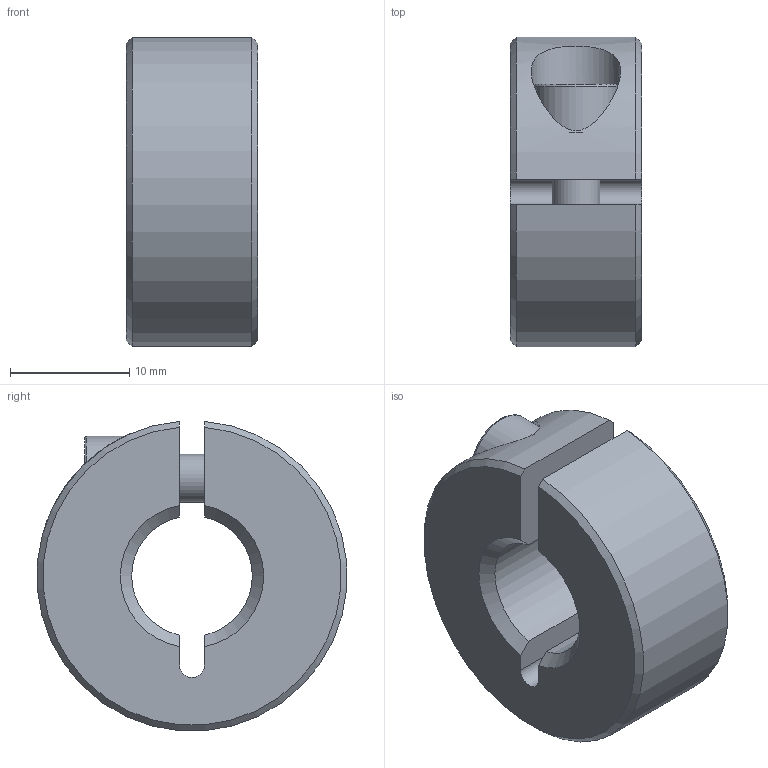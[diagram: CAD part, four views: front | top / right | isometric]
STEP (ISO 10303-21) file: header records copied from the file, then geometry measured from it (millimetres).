
FILE_DESCRIPTION( ( 'STEP AP203' ), '1' );
FILE_NAME( 'C:/Temp/Ganter_Step_05_03_2020/data/3_2/gn706_3/gn706_3_st/Threaded set collar GN 706.3-26-M12-ST.stp', '2020-03-13T05:33:33', ( 'License CC BY-ND 4.0' ), ( 'CADENAS' ), ' ', 'PARTsolutions', ' ' );
FILE_SCHEMA( ( 'CONFIG_CONTROL_DESIGN' ) );
Length unit declared in the file: millimetre
Products named in the file (1): _Threaded set collar GN 706.3-26-M12-ST
Bounding box: 11 x 25.91 x 25.91 mm (x, y, z)
Volume: 4590.7 mm3; surface area: 2529.4 mm2
Topology: 1 solids, 1 shells, 31 faces, 74 edges, 49 vertices
Faces by surface type: plane 16, cylinder 8, cone 6, torus 1
Full cylindrical faces by diameter (mm): 4 x1, 4.3 x1, 7 x1, 7.5 x1
Entity records: 1008 total; most frequent: CARTESIAN_POINT 259, DIRECTION 142, ORIENTED_EDGE 138, EDGE_CURVE 69, AXIS2_PLACEMENT_3D 54, VERTEX_POINT 49, EDGE_LOOP 42, FACE_OUTER_BOUND 36
